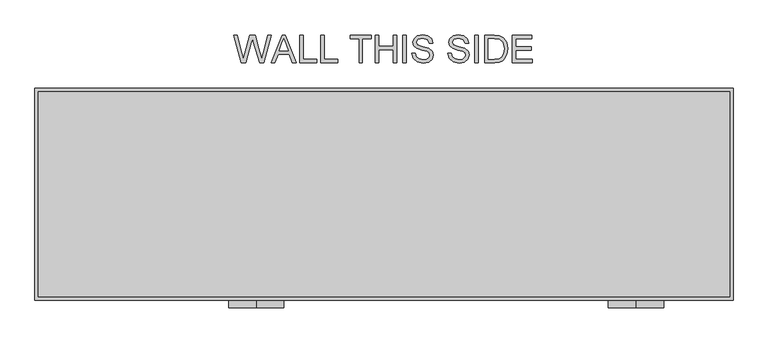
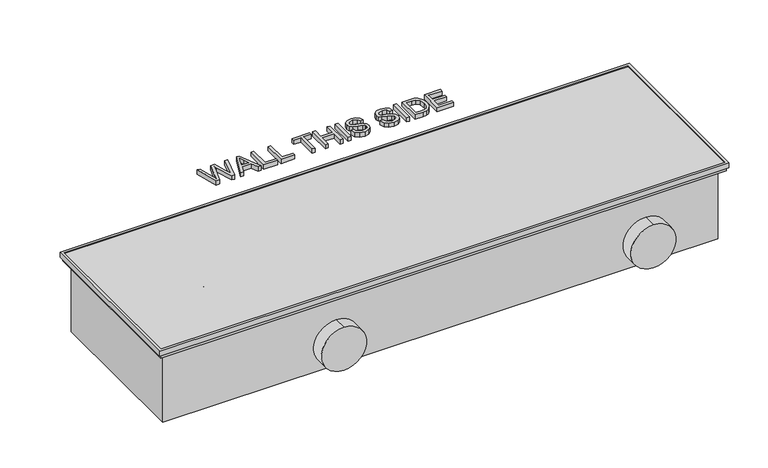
"""IFC4 building model written with IfcOpenShell, lengths in millimetres: unitary equipment geometry, VERANO CVK4P-II : CVK4P-18/35-II."""

from ifc_helpers import new_model, si_unit, point, frame, frame_2d, origin, origin_with_axes, place, context, project, spatial, polyline, circle_curve, trimmed, segment, composite_curve, outline, extrude, faceted_brep, source, transform, mapped, element, save


def unitary_equipment_db606911(model_context):
    return source(origin(), model_context, "Body", "SolidModel", [
        extrude(outline(composite_curve([segment(trimmed(circle_curve(frame_2d((-124.0, 454.0)), 50.0), [point((-74.0, 454.0))], [point((-174.0, 454.0))], False, "CARTESIAN"), True, "CONTINUOUS"), segment(trimmed(circle_curve(frame_2d((-124.0, 454.0)), 50.0), [point((-174.0, 454.0))], [point((-74.0, 454.0))], False, "CARTESIAN"), True, "CONTINUOUS")], self_intersect=False)), frame((0.0, -205.0, 0.0), z_axis=(0.0, 1.0, 0.0), x_axis=(0.0, 0.0, 1.0)), (0.0, 0.0, 1.0), 30.0),
        extrude(outline(composite_curve([segment(trimmed(circle_curve(frame_2d((-124.0, -230.0)), 50.0), [point((-74.0, -230.0))], [point((-174.0, -230.0))], False, "CARTESIAN"), True, "CONTINUOUS"), segment(trimmed(circle_curve(frame_2d((-124.0, -230.0)), 50.0), [point((-174.0, -230.0))], [point((-74.0, -230.0))], False, "CARTESIAN"), True, "CONTINUOUS")], self_intersect=False)), frame((0.0, -205.0, 0.0), z_axis=(0.0, 1.0, 0.0), x_axis=(0.0, 0.0, 1.0)), (0.0, 0.0, 1.0), 30.0),
        extrude(outline(composite_curve([segment(trimmed(circle_curve(frame_2d((25.0, -81.0)), 10.0), [point((25.0, -71.0))], [point((25.0, -91.0))], False, "CARTESIAN"), True, "CONTINUOUS"), segment(trimmed(circle_curve(frame_2d((25.0, -81.0)), 10.0), [point((25.0, -91.0))], [point((25.0, -71.0))], False, "CARTESIAN"), True, "CONTINUOUS")], self_intersect=False)), frame((-477.0, 0.0, 0.0), z_axis=(1.0, 0.0, 0.0), x_axis=(0.0, 1.0, 0.0)), (0.0, 0.0, 1.0), 70.0),
        extrude(outline(composite_curve([segment(trimmed(circle_curve(frame_2d((155.0, -103.0)), 10.0), [point((155.0, -93.0))], [point((155.0, -113.0))], False, "CARTESIAN"), True, "CONTINUOUS"), segment(trimmed(circle_curve(frame_2d((155.0, -103.0)), 10.0), [point((155.0, -113.0))], [point((155.0, -93.0))], False, "CARTESIAN"), True, "CONTINUOUS")], self_intersect=False)), frame((-477.0, 0.0, 0.0), z_axis=(1.0, 0.0, 0.0), x_axis=(0.0, 1.0, 0.0)), (0.0, 0.0, 1.0), 70.0),
        extrude(outline(polyline([(-417.0, -25.0), (-417.0, -5.0), (-407.0, -5.0), (-407.0, -25.0), (-417.0, -25.0)])), frame((0.0, 0.0, -170.0), z_axis=(0.0, 0.0, 1.0), x_axis=(1.0, 0.0, 0.0)), (0.0, 0.0, 1.0), 10.0),
        faceted_brep([(623.0, -185.0, -16.5), (623.0, -185.0, 1.5), (623.0, 185.0, 1.5), (623.0, 185.0, -16.5), (624.0, -186.0, 0.0), (624.0, -186.0, -16.5), (624.0, 186.0, -16.5), (624.0, 186.0, 0.0), (628.0, -190.0, -10.0), (628.0, -190.0, 0.0), (628.0, 190.0, 0.0), (628.0, 190.0, -10.0), (629.0, -191.0, 1.5), (629.0, -191.0, -10.0), (629.0, 191.0, -10.0), (629.0, 191.0, 1.5), (-623.0, 185.0, 1.5), (-623.0, 185.0, -16.5), (-624.0, 186.0, -16.5), (-624.0, 186.0, 0.0), (-628.0, 190.0, 0.0), (-628.0, 190.0, -10.0), (-629.0, 191.0, -10.0), (-629.0, 191.0, 1.5), (-623.0, -185.0, 1.5), (-623.0, -185.0, -16.5), (-624.0, -186.0, -16.5), (-624.0, -186.0, 0.0), (-628.0, -190.0, 0.0), (-628.0, -190.0, -10.0), (-629.0, -191.0, -10.0), (-629.0, -191.0, 1.5)], [[[0, 1, 2, 3]], [[4, 5, 6, 7]], [[8, 9, 10, 11]], [[12, 13, 14, 15]], [[3, 2, 16, 17]], [[7, 6, 18, 19]], [[11, 10, 20, 21]], [[15, 14, 22, 23]], [[17, 16, 24, 25]], [[19, 18, 26, 27]], [[21, 20, 28, 29]], [[23, 22, 30, 31]], [[15, 23, 31, 12], [1, 24, 16, 2]], [[25, 24, 1, 0]], [[5, 26, 18, 6], [3, 17, 25, 0]], [[27, 26, 5, 4]], [[9, 28, 20, 10], [7, 19, 27, 4]], [[29, 28, 9, 8]], [[13, 30, 22, 14], [11, 21, 29, 8]], [[31, 30, 13, 12]]]),
        extrude(outline(composite_curve([segment(trimmed(circle_curve(frame_2d((28.0, -47.0)), 10.0), [point((28.0, -37.0))], [point((28.0, -57.0))], False, "CARTESIAN"), True, "CONTINUOUS"), segment(trimmed(circle_curve(frame_2d((28.0, -47.0)), 10.0), [point((28.0, -57.0))], [point((28.0, -37.0))], False, "CARTESIAN"), True, "CONTINUOUS")], self_intersect=False)), frame((-477.0, 0.0, 0.0), z_axis=(1.0, 0.0, 0.0), x_axis=(0.0, 1.0, 0.0)), (0.0, 0.0, 1.0), 70.0),
        extrude(outline(composite_curve([segment(trimmed(circle_curve(frame_2d((113.0, -114.0)), 10.0), [point((113.0, -104.0))], [point((113.0, -124.0))], False, "CARTESIAN"), True, "CONTINUOUS"), segment(trimmed(circle_curve(frame_2d((113.0, -114.0)), 10.0), [point((113.0, -124.0))], [point((113.0, -104.0))], False, "CARTESIAN"), True, "CONTINUOUS")], self_intersect=False)), frame((-477.0, 0.0, 0.0), z_axis=(1.0, 0.0, 0.0), x_axis=(0.0, 1.0, 0.0)), (0.0, 0.0, 1.0), 70.0),
        extrude(outline(polyline([(-256.9591346, 237.0), (-270.3846154, 286.2307692), (-264.0384615, 286.2307692), (-256.25, 253.875), (-253.8461538, 243.8870192), (-251.2740385, 252.7211538), (-241.5144231, 286.2307692), (-232.3677885, 286.2307692), (-225.2764423, 261.9399038), (-220.0, 243.8870192), (-217.6682692, 253.5865385), (-209.8076923, 286.2307692), (-203.4615385, 286.2307692), (-216.8990385, 237.0), (-223.4735577, 237.0), (-235.2764423, 274.9807692), (-236.9230769, 280.28125), (-238.7740385, 273.8990385), (-249.53125, 237.0), (-256.9591346, 237.0)])), origin_with_axes(), (0.0, 0.0, 1.0), 10.0),
        extrude(outline(polyline([(-203.0408654, 237.0), (-183.3894231, 286.2307692), (-178.1490385, 286.2307692), (-158.4975962, 237.0), (-165.0, 237.0), (-170.6370192, 252.3846154), (-190.9134615, 252.3846154), (-196.5384615, 237.0), (-203.0408654, 237.0)]), holes=[polyline([(-188.6538462, 258.5384615), (-172.8846154, 258.5384615), (-177.3197115, 270.6418269), (-180.7692308, 280.0769231), (-183.8341346, 271.6995192), (-188.6538462, 258.5384615)])]), origin_with_axes(), (0.0, 0.0, 1.0), 10.0),
        extrude(outline(polyline([(-151.9230769, 237.0), (-151.9230769, 286.2307692), (-145.7692308, 286.2307692), (-145.7692308, 243.1538462), (-121.1538462, 243.1538462), (-121.1538462, 237.0), (-151.9230769, 237.0)])), origin_with_axes(), (0.0, 0.0, 1.0), 10.0),
        extrude(outline(polyline([(-114.2307692, 237.0), (-114.2307692, 286.2307692), (-108.0769231, 286.2307692), (-108.0769231, 243.1538462), (-83.4615385, 243.1538462), (-83.4615385, 237.0), (-114.2307692, 237.0)])), origin_with_axes(), (0.0, 0.0, 1.0), 10.0),
        extrude(outline(polyline([(-45.0, 237.0), (-45.0, 280.0769231), (-61.1538462, 280.0769231), (-61.1538462, 286.2307692), (-22.6923077, 286.2307692), (-22.6923077, 280.0769231), (-38.8461538, 280.0769231), (-38.8461538, 237.0), (-45.0, 237.0)])), origin_with_axes(), (0.0, 0.0, 1.0), 10.0),
        extrude(outline(polyline([(-15.7692308, 237.0), (-15.7692308, 286.2307692), (-9.6153846, 286.2307692), (-9.6153846, 266.2307692), (16.5384615, 266.2307692), (16.5384615, 286.2307692), (22.6923077, 286.2307692), (22.6923077, 237.0), (16.5384615, 237.0), (16.5384615, 260.0769231), (-9.6153846, 260.0769231), (-9.6153846, 237.0), (-15.7692308, 237.0)])), origin_with_axes(), (0.0, 0.0, 1.0), 10.0),
        extrude(outline(polyline([(34.2307692, 237.0), (34.2307692, 286.2307692), (40.3846154, 286.2307692), (40.3846154, 237.0), (34.2307692, 237.0)])), origin_with_axes(), (0.0, 0.0, 1.0), 10.0),
        extrude(outline(polyline([(50.3846154, 253.9230769), (56.5384615, 253.9230769), (58.5216346, 247.7632212), (63.3653846, 243.8689904), (70.7451923, 242.3846154), (77.1754808, 243.5084135), (81.328125, 246.5973558), (82.6923077, 250.7259615), (81.6706731, 254.5661058), (77.4879808, 257.3605769), (68.5276442, 259.7103365), (58.8822115, 262.7451923), (53.6478365, 267.3245192), (51.9230769, 273.4423077), (54.0564904, 280.4074519), (60.2884615, 285.3233173), (69.4110577, 287.0), (79.1466346, 285.2451923), (85.6370192, 280.0889423), (88.0769231, 272.3846154), (81.9230769, 272.3846154), (78.4375, 278.7067308), (69.6514423, 280.8461538), (60.8413462, 278.7307692), (58.0769231, 273.6225962), (60.0360577, 269.3557692), (70.0841346, 265.9182692), (80.9735577, 262.8293269), (86.9290865, 257.8413462), (88.8461538, 250.8822115), (86.640625, 243.5204327), (80.2944712, 238.1478365), (70.9855769, 236.2307692), (59.9939904, 238.2980769), (53.0408654, 244.5240385), (50.3846154, 253.9230769)])), origin_with_axes(), (0.0, 0.0, 1.0), 10.0),
        extrude(outline(polyline([(115.0, 253.9230769), (121.1538462, 253.9230769), (123.1370192, 247.7632212), (127.9807692, 243.8689904), (135.3605769, 242.3846154), (141.7908654, 243.5084135), (145.9435096, 246.5973558), (147.3076923, 250.7259615), (146.2860577, 254.5661058), (142.1033654, 257.3605769), (133.1430288, 259.7103365), (123.4975962, 262.7451923), (118.2632212, 267.3245192), (116.5384615, 273.4423077), (118.671875, 280.4074519), (124.9038462, 285.3233173), (134.0264423, 287.0), (143.7620192, 285.2451923), (150.2524038, 280.0889423), (152.6923077, 272.3846154), (146.5384615, 272.3846154), (143.0528846, 278.7067308), (134.2668269, 280.8461538), (125.4567308, 278.7307692), (122.6923077, 273.6225962), (124.6514423, 269.3557692), (134.6995192, 265.9182692), (145.5889423, 262.8293269), (151.5444712, 257.8413462), (153.4615385, 250.8822115), (151.2560096, 243.5204327), (144.9098558, 238.1478365), (135.6009615, 236.2307692), (124.609375, 238.2980769), (117.65625, 244.5240385), (115.0, 253.9230769)])), origin_with_axes(), (0.0, 0.0, 1.0), 10.0),
        extrude(outline(polyline([(163.4615385, 237.0), (163.4615385, 286.2307692), (169.6153846, 286.2307692), (169.6153846, 237.0), (163.4615385, 237.0)])), origin_with_axes(), (0.0, 0.0, 1.0), 10.0),
        extrude(outline(polyline([(181.9230769, 237.0), (181.9230769, 286.2307692), (198.90625, 286.2307692), (207.6923077, 285.5216346), (214.9278846, 282.0), (220.7572115, 273.5865385), (222.6923077, 261.8798077), (221.3822115, 251.9459135), (218.0168269, 244.7764423), (213.5216346, 240.3112981), (207.6382212, 237.8413462), (199.7235577, 237.0), (181.9230769, 237.0)]), holes=[polyline([(188.0769231, 243.1538462), (198.9663462, 243.1538462), (206.8870192, 244.0432692), (211.4543269, 246.5552885), (215.1983173, 252.6670673), (216.5384615, 261.9759615), (213.9122596, 273.6346154), (207.5240385, 279.0913462), (198.7980769, 280.0769231), (188.0769231, 280.0769231), (188.0769231, 243.1538462)])]), origin_with_axes(), (0.0, 0.0, 1.0), 10.0),
        extrude(outline(polyline([(231.1538462, 237.0), (231.1538462, 286.2307692), (266.5384615, 286.2307692), (266.5384615, 280.0769231), (237.3076923, 280.0769231), (237.3076923, 265.4615385), (265.0, 265.4615385), (265.0, 259.3076923), (237.3076923, 259.3076923), (237.3076923, 243.1538462), (267.3076923, 243.1538462), (267.3076923, 237.0), (231.1538462, 237.0)])), origin_with_axes(), (0.0, 0.0, 1.0), 10.0),
        extrude(outline(polyline([(563.0, 175.0), (563.0, -162.0), (-407.0, -162.0), (-407.0, 175.0), (563.0, 175.0)])), frame((0.0, 0.0, -179.0), z_axis=(0.0, 0.0, 1.0), x_axis=(1.0, 0.0, 0.0)), (0.0, 0.0, 1.0), 161.0),
        extrude(outline(polyline([(625.0, 187.0), (625.0, -187.0), (-625.0, -187.0), (-625.0, 187.0), (625.0, 187.0)])), frame((0.0, 0.0, -18.0), z_axis=(0.0, 0.0, 1.0), x_axis=(1.0, 0.0, 0.0)), (0.0, 0.0, 1.0), 18.0),
        faceted_brep([(612.0, -174.0, -17.0), (612.0, 174.0, -17.0), (612.0, 174.0, -179.0), (612.0, -174.0, -179.0), (625.0, -187.0, 0.0), (625.0, -187.0, -18.0), (625.0, 187.0, -18.0), (625.0, 187.0, 0.0), (624.0, -186.0, -17.0), (624.0, -186.0, 0.0), (624.0, 186.0, 0.0), (624.0, 186.0, -17.0), (613.0, -175.0, -18.0), (613.0, -175.0, -180.0), (613.0, 175.0, -180.0), (613.0, 175.0, -18.0), (-625.0, 187.0, -18.0), (-625.0, 187.0, 0.0), (-624.0, 186.0, 0.0), (-624.0, 186.0, -17.0), (-613.0, 175.0, -180.0), (-613.0, 175.0, -18.0), (-612.0, 174.0, -17.0), (-612.0, 174.0, -179.0), (-625.0, -187.0, -18.0), (-625.0, -187.0, 0.0), (-624.0, -186.0, 0.0), (-624.0, -186.0, -17.0), (-613.0, -175.0, -180.0), (-613.0, -175.0, -18.0), (-612.0, -174.0, -17.0), (-612.0, -174.0, -179.0)], [[[0, 1, 2, 3]], [[4, 5, 6, 7]], [[8, 9, 10, 11]], [[12, 13, 14, 15]], [[7, 6, 16, 17]], [[11, 10, 18, 19]], [[15, 14, 20, 21]], [[1, 22, 23, 2]], [[17, 16, 24, 25]], [[19, 18, 26, 27]], [[21, 20, 28, 29]], [[22, 30, 31, 23]], [[8, 11, 19, 27], [1, 0, 30, 22]], [[5, 4, 25, 24]], [[4, 7, 17, 25], [10, 9, 26, 18]], [[9, 8, 27, 26]], [[6, 5, 24, 16], [12, 15, 21, 29]], [[13, 12, 29, 28]], [[14, 13, 28, 20]], [[30, 0, 3, 31]], [[3, 2, 23, 31]]]),
    ])


if __name__ == "__main__":
    model = new_model("IFC4")
    model_context = context("Model", 3, world=origin())
    ifc_project = project(units=[si_unit("LENGTHUNIT", "METRE", prefix="MILLI")], contexts=[model_context])
    site = spatial("IfcSite", under=ifc_project)
    building = spatial("IfcBuilding", under=site)
    placement = place(None, origin())
    unitary_equipment_shape = unitary_equipment_db606911(model_context)
    element("IfcUnitaryEquipment", 1, ObjectType="VERANO CVK4P-II : CVK4P-18/35-II", at=placement, inside=building, context=model_context, shape_type="MappedRepresentation", body=[
        mapped(unitary_equipment_shape, transform((0.0, 0.0, 0.0), x_axis=(1.0, 0.0, 0.0), y_axis=(0.0, 1.0, 0.0), z_axis=(0.0, 0.0, 1.0))),
    ])
    save(model, "model.ifc")
